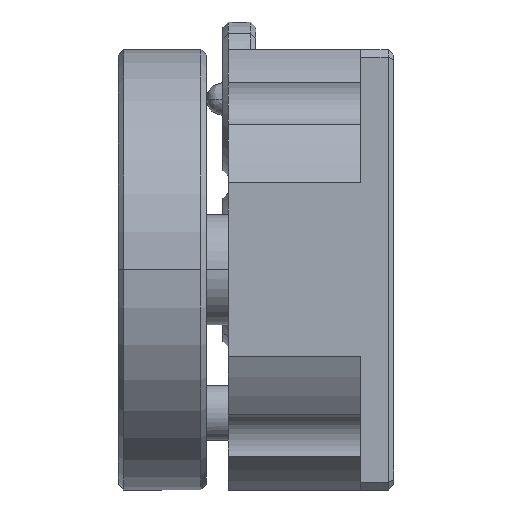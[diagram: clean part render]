
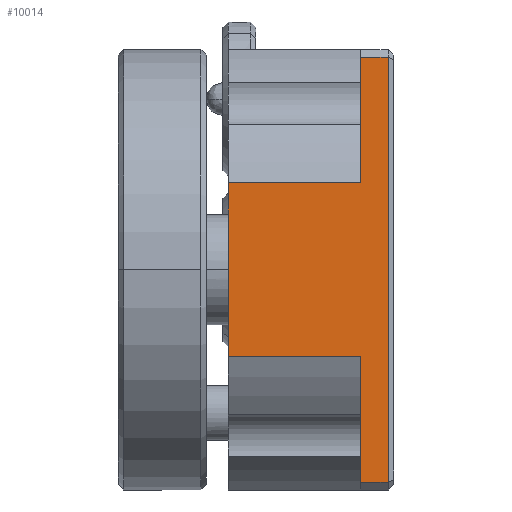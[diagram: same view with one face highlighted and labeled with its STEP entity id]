
A CAD part, left-side view. The second image highlights one B-rep face of the part: STEP entity #10014.
In plain terms, the highlighted planar face has unit normal (-1, 0, 0).
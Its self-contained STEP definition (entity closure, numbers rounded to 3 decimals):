
#6 = DIRECTION ( 'NONE',  ( 0., 0., -1. ) ) ;
#129 = VECTOR ( 'NONE', #6, 1000. ) ;
#2387 = CARTESIAN_POINT ( 'NONE',  ( -6.268, 29.89, 38.196 ) ) ;
#2453 = EDGE_CURVE ( 'NONE', #5916, #28507, #3660, .T. ) ;
#2663 = CARTESIAN_POINT ( 'NONE',  ( -6.268, 29.89, 22.416 ) ) ;
#3353 = DIRECTION ( 'NONE',  ( 0., -1., 0. ) ) ;
#3660 = LINE ( 'NONE', #13923, #22973 ) ;
#3833 = VECTOR ( 'NONE', #15380, 1000. ) ;
#3866 = EDGE_CURVE ( 'NONE', #20322, #27453, #11251, .T. ) ;
#3900 = EDGE_CURVE ( 'NONE', #6757, #20322, #21083, .T. ) ;
#4423 = ORIENTED_EDGE ( 'NONE', *, *, #13090, .F. ) ;
#5106 = VECTOR ( 'NONE', #19824, 1000. ) ;
#5483 = DIRECTION ( 'NONE',  ( 0., 0., -1. ) ) ;
#5916 = VERTEX_POINT ( 'NONE', #22686 ) ;
#6536 = CARTESIAN_POINT ( 'NONE',  ( -6.268, 29.89, 22.416 ) ) ;
#6757 = VERTEX_POINT ( 'NONE', #17541 ) ;
#7359 = FACE_OUTER_BOUND ( 'NONE', #26075, .T. ) ;
#7920 = ORIENTED_EDGE ( 'NONE', *, *, #30931, .F. ) ;
#8690 = ORIENTED_EDGE ( 'NONE', *, *, #13255, .T. ) ;
#9154 = VERTEX_POINT ( 'NONE', #25183 ) ;
#10014 = ADVANCED_FACE ( 'NONE', ( #7359 ), #31445, .F. ) ;
#10980 = AXIS2_PLACEMENT_3D ( 'NONE', #29273, #26752, #31997 ) ;
#11088 = EDGE_CURVE ( 'NONE', #5916, #6757, #30908, .T. ) ;
#11251 = LINE ( 'NONE', #12574, #3833 ) ;
#11643 = VECTOR ( 'NONE', #3353, 1000. ) ;
#11717 = VECTOR ( 'NONE', #5483, 1000. ) ;
#12542 = LINE ( 'NONE', #6536, #5106 ) ;
#12574 = CARTESIAN_POINT ( 'NONE',  ( -6.268, 29.89, 11.006 ) ) ;
#13090 = EDGE_CURVE ( 'NONE', #9154, #22607, #12542, .T. ) ;
#13255 = EDGE_CURVE ( 'NONE', #9154, #27453, #23569, .T. ) ;
#13335 = DIRECTION ( 'NONE',  ( 0., -1., 0. ) ) ;
#13699 = DIRECTION ( 'NONE',  ( 0., 0., -1. ) ) ;
#13923 = CARTESIAN_POINT ( 'NONE',  ( -6.268, 17.89, 46.306 ) ) ;
#14563 = ORIENTED_EDGE ( 'NONE', *, *, #2453, .T. ) ;
#15380 = DIRECTION ( 'NONE',  ( 0., 1., 0. ) ) ;
#17541 = CARTESIAN_POINT ( 'NONE',  ( -6.268, 15.39, 49.606 ) ) ;
#18140 = CARTESIAN_POINT ( 'NONE',  ( -6.268, 17.89, 38.196 ) ) ;
#18256 = CARTESIAN_POINT ( 'NONE',  ( -6.268, 15.39, 10.306 ) ) ;
#19358 = CARTESIAN_POINT ( 'NONE',  ( -6.268, 29.89, 38.196 ) ) ;
#19824 = DIRECTION ( 'NONE',  ( 0., 1., 0. ) ) ;
#20281 = VECTOR ( 'NONE', #33538, 1000. ) ;
#20322 = VERTEX_POINT ( 'NONE', #24413 ) ;
#20379 = CARTESIAN_POINT ( 'NONE',  ( -6.268, 17.89, 14.306 ) ) ;
#20402 = VERTEX_POINT ( 'NONE', #19358 ) ;
#21083 = LINE ( 'NONE', #18256, #129 ) ;
#21456 = ORIENTED_EDGE ( 'NONE', *, *, #3900, .F. ) ;
#22100 = EDGE_CURVE ( 'NONE', #20402, #22607, #23601, .T. ) ;
#22607 = VERTEX_POINT ( 'NONE', #2663 ) ;
#22686 = CARTESIAN_POINT ( 'NONE',  ( -6.268, 17.89, 49.606 ) ) ;
#22973 = VECTOR ( 'NONE', #13699, 1000. ) ;
#23496 = CARTESIAN_POINT ( 'NONE',  ( -6.268, 29.89, 10.306 ) ) ;
#23569 = LINE ( 'NONE', #20379, #20281 ) ;
#23601 = LINE ( 'NONE', #23496, #11717 ) ;
#24413 = CARTESIAN_POINT ( 'NONE',  ( -6.268, 15.39, 11.006 ) ) ;
#25183 = CARTESIAN_POINT ( 'NONE',  ( -6.268, 17.89, 22.416 ) ) ;
#26075 = EDGE_LOOP ( 'NONE', ( #8690, #31272, #21456, #31020, #14563, #7920, #32711, #4423 ) ) ;
#26752 = DIRECTION ( 'NONE',  ( 1., 0., 0. ) ) ;
#27453 = VERTEX_POINT ( 'NONE', #28660 ) ;
#28507 = VERTEX_POINT ( 'NONE', #18140 ) ;
#28660 = CARTESIAN_POINT ( 'NONE',  ( -6.268, 17.89, 11.006 ) ) ;
#29273 = CARTESIAN_POINT ( 'NONE',  ( -6.268, 29.89, 10.306 ) ) ;
#30908 = LINE ( 'NONE', #32259, #11643 ) ;
#30931 = EDGE_CURVE ( 'NONE', #20402, #28507, #32514, .T. ) ;
#31020 = ORIENTED_EDGE ( 'NONE', *, *, #11088, .F. ) ;
#31272 = ORIENTED_EDGE ( 'NONE', *, *, #3866, .F. ) ;
#31291 = VECTOR ( 'NONE', #13335, 1000. ) ;
#31445 = PLANE ( 'NONE',  #10980 ) ;
#31997 = DIRECTION ( 'NONE',  ( 0., 0., -1. ) ) ;
#32259 = CARTESIAN_POINT ( 'NONE',  ( -6.268, 29.89, 49.606 ) ) ;
#32514 = LINE ( 'NONE', #2387, #31291 ) ;
#32711 = ORIENTED_EDGE ( 'NONE', *, *, #22100, .T. ) ;
#33538 = DIRECTION ( 'NONE',  ( 0., 0., -1. ) ) ;
